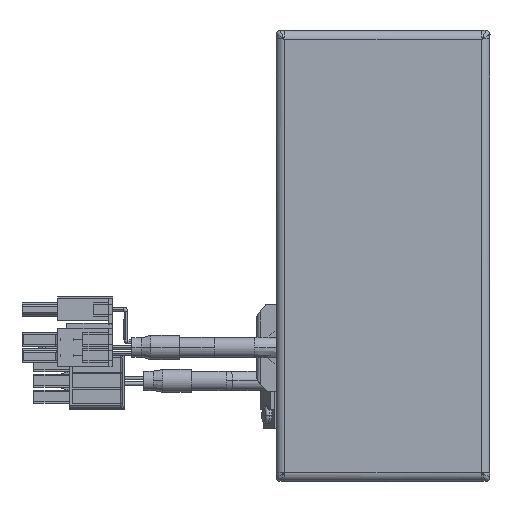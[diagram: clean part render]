
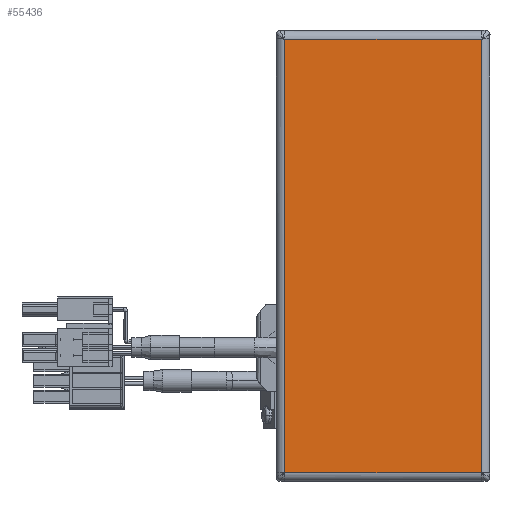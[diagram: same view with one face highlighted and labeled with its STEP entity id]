
A CAD part, top view. The second image highlights one B-rep face of the part: STEP entity #55436.
In plain terms, the highlighted planar face has unit normal (0, 0, 1) as drawn and (0, 0, -1) by its records, which use the part's own axes.
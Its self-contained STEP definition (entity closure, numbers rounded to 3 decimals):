
#802 = EDGE_CURVE ( 'NONE', #52676, #40936, #48634, .T. ) ;
#2203 = VECTOR ( 'NONE', #52351, 1000. ) ;
#8463 = LINE ( 'NONE', #56564, #31632 ) ;
#8954 = VERTEX_POINT ( 'NONE', #57787 ) ;
#10746 = CARTESIAN_POINT ( 'NONE',  ( -56.763, -25.793, -1.5 ) ) ;
#13139 = DIRECTION ( 'NONE',  ( 0., 0., -1. ) ) ;
#14466 = LINE ( 'NONE', #10746, #2203 ) ;
#14902 = CARTESIAN_POINT ( 'NONE',  ( 56.763, 25.793, -1.5 ) ) ;
#14943 = EDGE_CURVE ( 'NONE', #40936, #8954, #37122, .T. ) ;
#15982 = ORIENTED_EDGE ( 'NONE', *, *, #20106, .T. ) ;
#16065 = CARTESIAN_POINT ( 'NONE',  ( -56.763, 25.763, -1.5 ) ) ;
#19554 = DIRECTION ( 'NONE',  ( 0., -1., 0. ) ) ;
#20106 = EDGE_CURVE ( 'NONE', #38403, #52676, #8463, .T. ) ;
#24891 = VECTOR ( 'NONE', #39047, 1000. ) ;
#25176 = CARTESIAN_POINT ( 'NONE',  ( 56.793, -25.763, -1.5 ) ) ;
#26633 = AXIS2_PLACEMENT_3D ( 'NONE', #35747, #13139, #45392 ) ;
#28895 = DIRECTION ( 'NONE',  ( 1., 0., 0. ) ) ;
#31632 = VECTOR ( 'NONE', #28895, 1000. ) ;
#35747 = CARTESIAN_POINT ( 'NONE',  ( 0., 0., -1.5 ) ) ;
#37122 = LINE ( 'NONE', #25176, #24891 ) ;
#37779 = CARTESIAN_POINT ( 'NONE',  ( 56.763, -25.763, -1.5 ) ) ;
#38403 = VERTEX_POINT ( 'NONE', #16065 ) ;
#39047 = DIRECTION ( 'NONE',  ( -1., 0., 0. ) ) ;
#40663 = ORIENTED_EDGE ( 'NONE', *, *, #45574, .T. ) ;
#40936 = VERTEX_POINT ( 'NONE', #37779 ) ;
#45123 = CARTESIAN_POINT ( 'NONE',  ( 56.763, 25.763, -1.5 ) ) ;
#45392 = DIRECTION ( 'NONE',  ( -1., 0., 0. ) ) ;
#45574 = EDGE_CURVE ( 'NONE', #8954, #38403, #14466, .T. ) ;
#45608 = ORIENTED_EDGE ( 'NONE', *, *, #802, .T. ) ;
#48634 = LINE ( 'NONE', #14902, #59541 ) ;
#48920 = ORIENTED_EDGE ( 'NONE', *, *, #14943, .T. ) ;
#52351 = DIRECTION ( 'NONE',  ( 0., 1., 0. ) ) ;
#52676 = VERTEX_POINT ( 'NONE', #45123 ) ;
#55436 = ADVANCED_FACE ( 'NONE', ( #57715 ), #59222, .T. ) ;
#56564 = CARTESIAN_POINT ( 'NONE',  ( -56.793, 25.763, -1.5 ) ) ;
#57715 = FACE_OUTER_BOUND ( 'NONE', #58538, .T. ) ;
#57787 = CARTESIAN_POINT ( 'NONE',  ( -56.763, -25.763, -1.5 ) ) ;
#58538 = EDGE_LOOP ( 'NONE', ( #45608, #48920, #40663, #15982 ) ) ;
#59222 = PLANE ( 'NONE',  #26633 ) ;
#59541 = VECTOR ( 'NONE', #19554, 1000. ) ;
